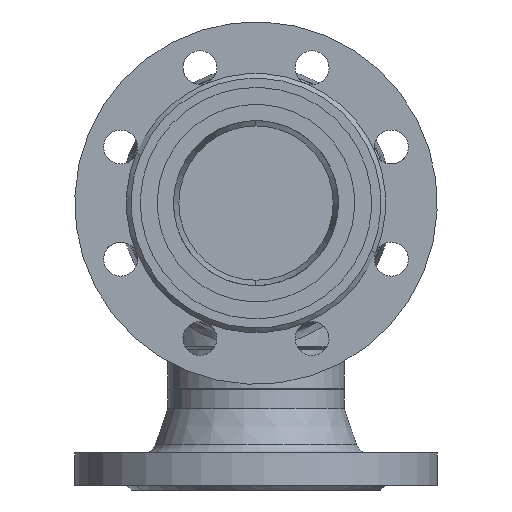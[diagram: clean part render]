
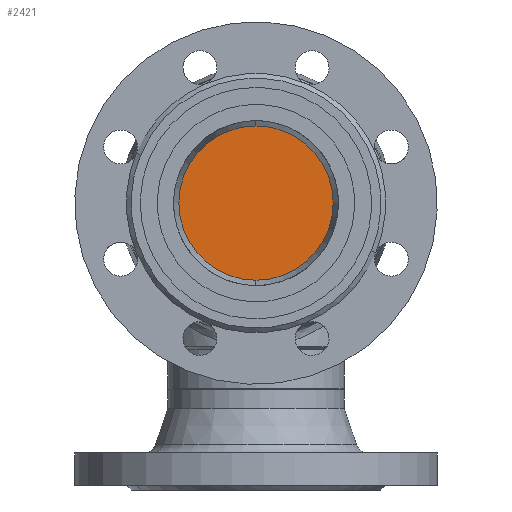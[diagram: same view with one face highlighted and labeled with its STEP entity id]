
A CAD part, front view. The second image highlights one B-rep face of the part: STEP entity #2421.
In plain terms, the highlighted planar face has unit normal (0, -1, 0) as drawn and (0, 0, 1) by its records, which use the part's own axes.
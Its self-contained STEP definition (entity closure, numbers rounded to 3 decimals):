
#16919 = EDGE_LOOP ( 'NONE', ( #15488, #15384 ) ) ;
#814 = EDGE_CURVE ( 'NONE', #15789, #15914, #12206, .T. ) ;
#2421 = ADVANCED_FACE ( 'NONE', ( #15202 ), #15203, .T. ) ;
#10381 = EDGE_CURVE ( 'NONE', #15914, #15789, #12452, .T. ) ;
#12206 = CIRCLE ( 'NONE', #12207, 57.5 ) ;
#12207 = AXIS2_PLACEMENT_3D ( 'NONE', #12208, #12209, #12210 ) ;
#12208 = CARTESIAN_POINT ( 'NONE',  ( 0., 0., 17.5 ) ) ;
#12209 = DIRECTION ( 'NONE',  ( 0., 0., 1. ) ) ;
#12210 = DIRECTION ( 'NONE',  ( 1., 0., 0. ) ) ;
#12452 = CIRCLE ( 'NONE', #12453, 57.5 ) ;
#12453 = AXIS2_PLACEMENT_3D ( 'NONE', #12454, #12455, #12456 ) ;
#12454 = CARTESIAN_POINT ( 'NONE',  ( 0., 0., 17.5 ) ) ;
#12455 = DIRECTION ( 'NONE',  ( 0., 0., 1. ) ) ;
#12456 = DIRECTION ( 'NONE',  ( 1., 0., 0. ) ) ;
#14994 = CARTESIAN_POINT ( 'NONE',  ( -57.5, 0., 17.5 ) ) ;
#15166 = CARTESIAN_POINT ( 'NONE',  ( 57.5, 0., 17.5 ) ) ;
#15202 = FACE_OUTER_BOUND ( 'NONE', #16919, .T. ) ;
#15203 = PLANE ( 'NONE',  #15204 ) ;
#15204 = AXIS2_PLACEMENT_3D ( 'NONE', #15205, #15206, #15207 ) ;
#15205 = CARTESIAN_POINT ( 'NONE',  ( 0., 0., 17.5 ) ) ;
#15206 = DIRECTION ( 'NONE',  ( 0., 0., 1. ) ) ;
#15207 = DIRECTION ( 'NONE',  ( 1., 0., 0. ) ) ;
#15384 = ORIENTED_EDGE ( 'NONE', *, *, #10381, .T. ) ;
#15488 = ORIENTED_EDGE ( 'NONE', *, *, #814, .T. ) ;
#15789 = VERTEX_POINT ( 'NONE', #14994 ) ;
#15914 = VERTEX_POINT ( 'NONE', #15166 ) ;
